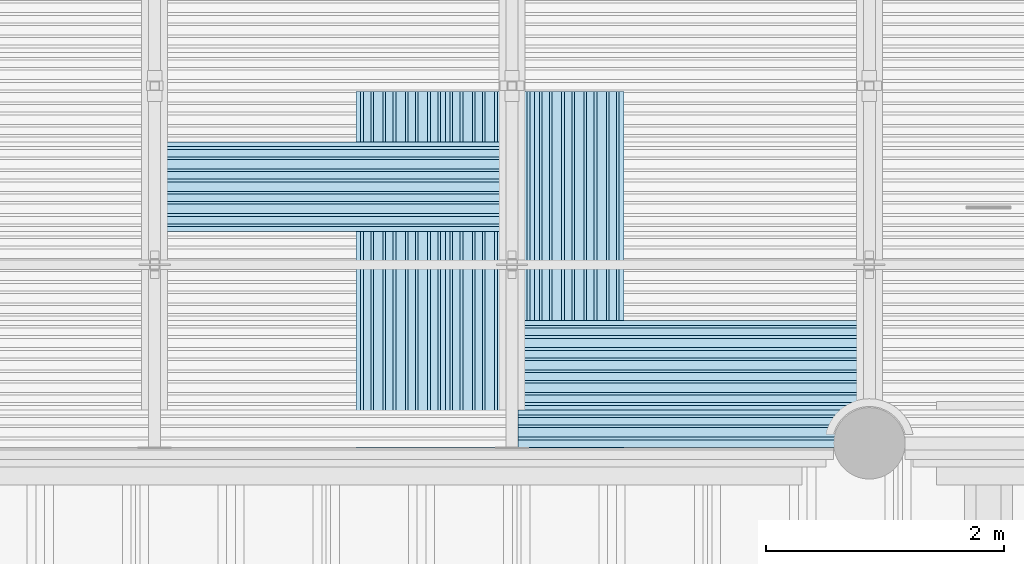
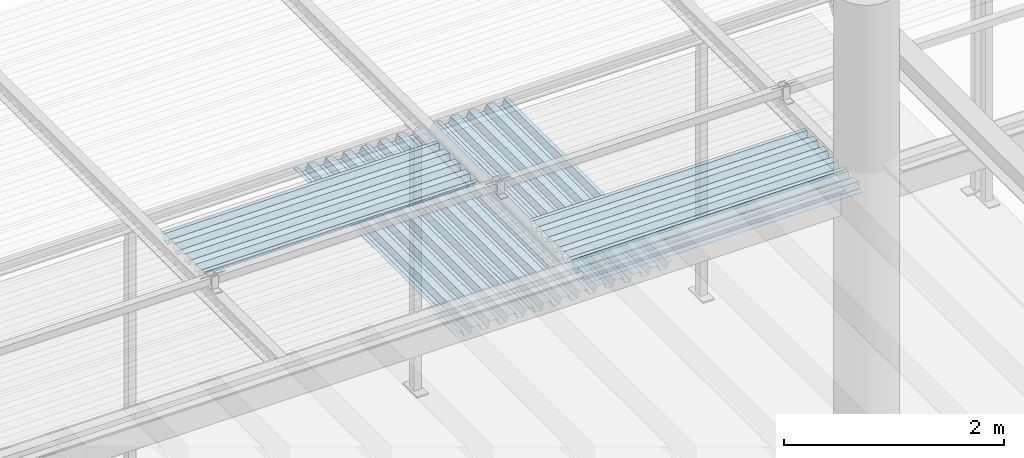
# One storey, part 70 of 98: 6 slabs.
"""IFC2X3 building model written with IfcOpenShell, lengths in millimetres."""

import ifcopenshell
import ifcopenshell.guid

model = None  # the IFC model being written
_history = None  # IfcOwnerHistory: only IFC2X3 demands one
_inside = {}  # id of a spatial element -> (the spatial element, [elements in it])
_under = {}  # id of a project, library or spatial element -> (it, [spatial elements below it])
_declared = {}  # id of a project -> (the project, [libraries it declares])
_typed = {}  # id of a type object -> (the type object, [elements of that type])
_made_of = {}  # id of a material, layer set ... -> (it, [elements and type objects made of it])


def new_model(schema):
    """Start an empty IFC model of exactly this schema.

    Asked for "IFC4X3", IfcOpenShell would pick the latest addendum, in which some entities
    have other attributes; the version numbers below select the first issue.
    IFC2X3 requires an IfcOwnerHistory on every rooted entity: one is made here for all.
    """
    global model, _history
    if schema == "IFC4X3":
        model = ifcopenshell.file(schema_version=(4, 3, 0, 0))
    else:
        model = ifcopenshell.file(schema=schema)
    _inside.clear()
    _under.clear()
    _declared.clear()
    _typed.clear()
    _made_of.clear()
    _history = None
    if model.schema == "IFC2X3":
        org = make("IfcOrganization", Name="unknown")
        user = make(
            "IfcPersonAndOrganization",
            ThePerson=make("IfcPerson", FamilyName="unknown"),
            TheOrganization=org,
        )
        app = make(
            "IfcApplication",
            ApplicationDeveloper=org,
            Version="unknown",
            ApplicationFullName="unknown",
            ApplicationIdentifier="unknown",
        )
        _history = make(
            "IfcOwnerHistory",
            OwningUser=user,
            OwningApplication=app,
            ChangeAction="ADDED",
            CreationDate=0,
        )
    return model


def make(cls, **values):
    """One entity of the class cls with the attributes given. An attribute that is None is left unset."""
    return model.create_entity(
        cls, **{name: value for name, value in values.items() if value is not None}
    )


def entity(cls, *values):
    """Any entity or typed value of the class cls, its attributes in the order of the schema. None: left unset."""
    e = model.create_entity(cls)
    for i, value in enumerate(values):
        if value is not None:
            e[i] = value
    return e


def rooted(cls, **values):
    """An entity with a GlobalId (a new one), such as an element, a storey or a relation."""
    return make(cls, GlobalId=ifcopenshell.guid.new(), OwnerHistory=_history, **values)


def si_unit(unit_type, name, prefix=None):
    """IfcSIUnit, for example si_unit("LENGTHUNIT", "METRE", prefix="MILLI")."""
    return make("IfcSIUnit", UnitType=unit_type, Prefix=prefix, Name=name)


def converted_unit(unit_type, name, factor, base, dimensions=None, offset=None):
    """IfcConversionBasedUnit, such as the inch: factor (a typed value) times the base unit."""
    return make(
        "IfcConversionBasedUnit"
        if offset is None
        else "IfcConversionBasedUnitWithOffset",
        ConversionOffset=offset,
        Dimensions=None
        if dimensions is None
        else entity("IfcDimensionalExponents", *dimensions),
        UnitType=unit_type,
        Name=name,
        ConversionFactor=make(
            "IfcMeasureWithUnit", ValueComponent=factor, UnitComponent=base
        ),
    )


def derived_unit(unit_type, elements):
    """IfcDerivedUnit: a product of units, each with its exponent."""
    return make(
        "IfcDerivedUnit",
        Elements=[
            make("IfcDerivedUnitElement", Unit=unit, Exponent=power)
            for unit, power in elements
        ],
        UnitType=unit_type,
    )


def assignment(units):
    """IfcUnitAssignment: the units of a project."""
    return None if units is None else make("IfcUnitAssignment", Units=units)


def point(xyz):
    """IfcCartesianPoint."""
    return None if xyz is None else make("IfcCartesianPoint", Coordinates=xyz)


def direction(xyz):
    """IfcDirection."""
    return None if xyz is None else make("IfcDirection", DirectionRatios=xyz)


def frame(location, z_axis=None, x_axis=None):
    """IfcAxis2Placement3D, a coordinate frame: its origin and axes. An axis left out is left unset."""
    return make(
        "IfcAxis2Placement3D",
        Location=point(location),
        Axis=direction(z_axis),
        RefDirection=direction(x_axis),
    )


def origin_with_axes():
    """The frame at (0, 0, 0) with the z axis (0, 0, 1) and the x axis (1, 0, 0) written out."""
    return frame((0.0, 0.0, 0.0), z_axis=(0.0, 0.0, 1.0), x_axis=(1.0, 0.0, 0.0))


def place(relative_to, where):
    """IfcLocalPlacement: puts the frame where relative to a parent placement (None: the world)."""
    return make(
        "IfcLocalPlacement", PlacementRelTo=relative_to, RelativePlacement=where
    )


def context(
    kind, dimensions, precision=None, world=None, true_north=None, identifier=None
):
    """IfcGeometricRepresentationContext, for example the 3D "Model" context."""
    return make(
        "IfcGeometricRepresentationContext",
        ContextIdentifier=identifier,
        ContextType=kind,
        CoordinateSpaceDimension=dimensions,
        Precision=precision,
        WorldCoordinateSystem=world,
        TrueNorth=true_north,
    )


def subcontext(parent, identifier, kind, view, scale=None):
    """IfcGeometricRepresentationSubContext, for example "Body" below "Model"."""
    return make(
        "IfcGeometricRepresentationSubContext",
        ContextIdentifier=identifier,
        ContextType=kind,
        ParentContext=parent,
        TargetScale=scale,
        TargetView=view,
    )


def project(units=None, contexts=None):
    """IfcProject with its units and contexts."""
    return rooted(
        "IfcProject",
        Name="project",
        RepresentationContexts=contexts,
        UnitsInContext=assignment(units),
    )


def spatial(cls, under=None, at=None, **own):
    """A site, building, storey or space (cls), placed at a placement, below another one or the project."""
    s = rooted(cls, ObjectPlacement=at, **own)
    if under is not None:
        _under.setdefault(under.id(), (under, []))[1].append(s)
    return s


def faces_of(points, faces, orient=None, outer=None):
    """IfcFace entities. A face is a list of loops; a loop is a list of indices into points, from 0.

    orient and outer hold one flag for each loop. By default every Orientation is true, the
    first loop of a face is its IfcFaceOuterBound and the others are IfcFaceBound.
    """
    made = []
    for i, loops in enumerate(faces):
        bounds = []
        for j, loop in enumerate(loops):
            is_outer = j == 0 if outer is None else outer[i][j]
            bounds.append(
                make(
                    "IfcFaceOuterBound" if is_outer else "IfcFaceBound",
                    Bound=make("IfcPolyLoop", Polygon=[points[k] for k in loop]),
                    Orientation=True if orient is None else orient[i][j],
                )
            )
        made.append(make("IfcFace", Bounds=bounds))
    return made


def faceted_brep(points, faces, orient=None, outer=None, voids=None):
    """IfcFacetedBrep: a solid bounded by flat faces; with voids (closed shells), ...WithVoids."""
    shared = [point(p) for p in points]
    hull = make("IfcClosedShell", CfsFaces=faces_of(shared, faces, orient, outer))
    if voids is None:
        return make("IfcFacetedBrep", Outer=hull)
    return make(
        "IfcFacetedBrepWithVoids",
        Outer=hull,
        Voids=[
            make(cls, CfsFaces=faces_of(shared, fs, o, b)) for cls, fs, o, b in voids
        ],
    )


def shape(context_of_items, identifier, shape_type, items):
    """IfcShapeRepresentation: the items that make up one representation, for example the "Body"."""
    return make(
        "IfcShapeRepresentation",
        ContextOfItems=context_of_items,
        RepresentationIdentifier=identifier,
        RepresentationType=shape_type,
        Items=items,
    )


def material(Name=None, Category=None):
    """IfcMaterial."""
    return make("IfcMaterial", Name=Name, Category=Category)


def made_of(thing, what):
    """Note that an element or type object is made of a material, layer set ...; save() writes the relation."""
    if what is not None:
        _made_of.setdefault(what.id(), (what, []))[1].append(thing)
    return thing


def type_object(cls, material=None, **own):
    """A type object (cls), such as IfcWallType, which elements share."""
    return made_of(rooted(cls, **own), material)


def element(
    cls,
    number,
    at=None,
    inside=None,
    cuts=None,
    type_object=None,
    material=None,
    context=None,
    identifier="Body",
    shape_type=None,
    held_by="IfcProductDefinitionShape",
    body=None,
    shapes=None,
    **own,
):
    """One element of the class cls, such as IfcWall. Its Tag is "e" and its number.

    at: its placement. inside: the storey or other place that contains it. cuts: it is an
    opening in that element (IfcRelVoidsElement). A single representation is given by context,
    identifier, shape_type and body (its items); several are given by shapes. held_by: the class
    of the entity that holds the representations. save() writes the other relations.
    """
    e = rooted(cls, Tag="e%d" % number, ObjectPlacement=at, **own)
    if body is not None:
        shapes = [shape(context, identifier, shape_type, body)]
    if shapes is not None:
        e.Representation = make(held_by, Representations=shapes)
    if inside is not None:
        _inside.setdefault(inside.id(), (inside, []))[1].append(e)
    if cuts is not None:
        rooted(
            "IfcRelVoidsElement", RelatingBuildingElement=cuts, RelatedOpeningElement=e
        )
    if type_object is not None:
        _typed.setdefault(type_object.id(), (type_object, []))[1].append(e)
    return made_of(e, material)


def aggregate(whole, parts):
    """IfcRelAggregates: a whole, such as a stair, and the parts it consists of."""
    return rooted("IfcRelAggregates", RelatingObject=whole, RelatedObjects=parts)


def save(model, path):
    """Write the relations noted so far, then the file.

    IfcRelAggregates (storeys below a building ...), IfcRelContainedInSpatialStructure (elements
    in a storey), IfcRelDefinesByType, IfcRelAssociatesMaterial and IfcRelDeclares: one each for
    every whole, place, type object, material and project.
    """
    for whole, parts in _under.values():
        aggregate(whole, parts)
    for where, things in _inside.values():
        rooted(
            "IfcRelContainedInSpatialStructure",
            RelatedElements=things,
            RelatingStructure=where,
        )
    for kind, things in _typed.values():
        rooted("IfcRelDefinesByType", RelatedObjects=things, RelatingType=kind)
    for what, things in _made_of.values():
        rooted("IfcRelAssociatesMaterial", RelatedObjects=things, RelatingMaterial=what)
    for by, libraries in _declared.values():
        rooted("IfcRelDeclares", RelatingContext=by, RelatedDefinitions=libraries)
    model.write(path)


model = new_model("IFC2X3")

# Units and contexts
model_context = context("Model", 3, precision=0.01, world=frame((0.0, 4.29681676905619e-09, 0.0)), true_north=direction((4.01073788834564e-13, 1.0)))
plan_context = context("Plan", 3, precision=0.01, world=frame((0.0, 4.29681676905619e-09, 0.0)), true_north=direction((4.01073788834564e-13, 1.0)))
body_context = subcontext(model_context, "Body", "Model", "MODEL_VIEW")
ifc_project = project(units=[converted_unit("PLANEANGLEUNIT", "DEGREE", entity("IfcPositiveLengthMeasure", 0.0174532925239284), si_unit("PLANEANGLEUNIT", "RADIAN"), dimensions=[0, 0, 0, 0, 0, 0, 0]), si_unit("AREAUNIT", "SQUARE_METRE"), si_unit("LENGTHUNIT", "METRE", prefix="MILLI"), si_unit("MASSUNIT", "GRAM", prefix="KILO"), si_unit("POWERUNIT", "WATT"), si_unit("PRESSUREUNIT", "PASCAL"), si_unit("FORCEUNIT", "NEWTON", prefix="KILO"), si_unit("ELECTRICCURRENTUNIT", "AMPERE"), si_unit("THERMODYNAMICTEMPERATUREUNIT", "DEGREE_CELSIUS"), si_unit("TIMEUNIT", "SECOND"), si_unit("VOLUMEUNIT", "CUBIC_METRE"), derived_unit("LINEARVELOCITYUNIT", [(si_unit("LENGTHUNIT", "METRE"), 1), (si_unit("TIMEUNIT", "SECOND"), -1)]), derived_unit("VOLUMETRICFLOWRATEUNIT", [(si_unit("VOLUMEUNIT", "CUBIC_METRE"), 1), (si_unit("TIMEUNIT", "SECOND"), -1)]), derived_unit("THERMALTRANSMITTANCEUNIT", [(si_unit("POWERUNIT", "WATT"), 1), (si_unit("THERMODYNAMICTEMPERATUREUNIT", "KELVIN"), -1), (si_unit("AREAUNIT", "SQUARE_METRE"), -1)])], contexts=[model_context, plan_context])

# Site, building, storey
site_placement = place(None, frame((0.0, -4.29681676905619e-09, 0.0), z_axis=(0.0, 0.0, 1.0), x_axis=(1.0, 0.0, 0.0)))
site = spatial("IfcSite", under=ifc_project, at=site_placement, Name="Gardermoen", CompositionType="ELEMENT")
building_placement = place(site_placement, frame((0.0, 4.29681676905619e-09, 0.0), z_axis=(0.0, 0.0, 1.0), x_axis=(1.0, 0.0, 0.0)))
building = spatial("IfcBuilding", under=site, at=building_placement, Name="TS", CompositionType="ELEMENT")
storey_placement = place(building_placement, origin_with_axes())
storey = spatial("IfcBuildingStorey", under=building, at=storey_placement, Name="D", CompositionType="ELEMENT", Elevation=0.0)

# Slabs
ifc_material = material(Name="STEEL/S355")
slab_type = type_object("IfcSlabType", Name="PLANJA70", PredefinedType="NOTDEFINED")
slab_1_placement = place(storey_placement, frame((525950.000000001, 416654.996695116, 206958.849718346), z_axis=(0.0, 0.0, 1.0), x_axis=(-0.999999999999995, -9.99999902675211e-08, 0.0)))
element("IfcSlab", 1, at=slab_1_placement, inside=storey, type_object=slab_type, material=ifc_material, Name="STÅLTAK", ObjectType="PLANJA70", PredefinedType="FLOOR", context=body_context, shape_type="Brep", body=[
    faceted_brep([(0.0, 375.0, 34.1500015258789), (0.0, 335.299987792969, 34.1500015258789), (2900.00079747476, 335.299987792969, 34.1500015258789), (2900.00079747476, 375.0, 34.1500015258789), (0.0, 313.010681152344, -32.1500015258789), (2900.00079747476, 313.010681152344, -32.1500015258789), (0.0, 249.489303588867, -32.1500015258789), (2900.00079747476, 249.489303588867, -32.1500015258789), (0.0, 227.199996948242, 34.1500015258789), (2900.00079747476, 227.199996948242, 34.1500015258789), (0.0, 147.800003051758, 34.1500015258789), (2900.00079747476, 147.800003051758, 34.1500015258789), (0.0, 125.280120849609, -33.1500015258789), (2900.00079747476, 125.280120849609, -33.1500015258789), (0.0, 62.2198791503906, -33.1500015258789), (2900.00079747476, 62.2198791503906, -33.1500015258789), (0.0, 39.7000007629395, 34.1500015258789), (2900.00079747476, 39.7000007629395, 34.1500015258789), (0.0, -39.7000007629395, 34.1500015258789), (2900.00079747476, -39.7000007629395, 34.1500015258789), (0.0, -62.2198791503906, -33.1500015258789), (2900.00079747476, -62.2198791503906, -33.1500015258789), (0.0, -125.280120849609, -33.1500015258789), (2900.00079747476, -125.280120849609, -33.1500015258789), (0.0, -147.800003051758, 34.1500015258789), (2900.00079747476, -147.800003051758, 34.1500015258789), (0.0, -227.199996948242, 34.1500015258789), (2900.00079747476, -227.199996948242, 34.1500015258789), (0.0, -249.719879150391, -33.1500015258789), (2900.00079747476, -249.719879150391, -33.1500015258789), (0.0, -312.781188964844, -33.1500015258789), (2900.00079747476, -312.781188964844, -33.1500015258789), (0.0, -335.070495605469, 33.1500015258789), (2900.00079747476, -335.070495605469, 33.1500015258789), (0.0, -375.0, 33.1500015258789), (2900.00079747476, -375.0, 33.1500015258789), (0.0, -375.0, 32.1500015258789), (2900.00079747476, -375.0, 32.1500015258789), (0.0, -335.789306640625, 32.1500015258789), (2900.00079747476, -335.789306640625, 32.1500015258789), (0.0, -313.5, -34.1500015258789), (2900.00079747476, -313.5, -34.1500015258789), (0.0, -249.0, -34.1500015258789), (2900.00079747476, -249.0, -34.1500015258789), (0.0, -226.480117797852, 33.1500015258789), (2900.00079747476, -226.480117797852, 33.1500015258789), (0.0, -148.519882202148, 33.1500015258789), (2900.00079747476, -148.519882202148, 33.1500015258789), (0.0, -126.0, -34.1500015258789), (2900.00079747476, -126.0, -34.1500015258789), (0.0, -61.5, -34.1500015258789), (2900.00079747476, -61.5, -34.1500015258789), (0.0, -38.9801177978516, 33.1500015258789), (2900.00079747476, -38.9801177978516, 33.1500015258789), (0.0, 38.9801177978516, 33.1500015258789), (2900.00079747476, 38.9801177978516, 33.1500015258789), (0.0, 61.5, -34.1500015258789), (2900.00079747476, 61.5, -34.1500015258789), (0.0, 126.0, -34.1500015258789), (2900.00079747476, 126.0, -34.1500015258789), (0.0, 148.519882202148, 33.1500015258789), (2900.00079747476, 148.519882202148, 33.1500015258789), (0.0, 226.481185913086, 33.1500015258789), (2900.00079747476, 226.481185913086, 33.1500015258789), (0.0, 248.770492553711, -33.1500015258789), (2900.00079747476, 248.770492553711, -33.1500015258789), (0.0, 313.7294921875, -33.1500015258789), (2900.00079747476, 313.7294921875, -33.1500015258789), (0.0, 336.018798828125, 33.1500015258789), (2900.00079747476, 336.018798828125, 33.1500015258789), (0.0, 375.0, 33.1500015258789), (2900.00079747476, 375.0, 33.1500015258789)], [[[0, 1, 2, 3]], [[1, 4, 5, 2]], [[4, 6, 7, 5]], [[6, 8, 9, 7]], [[8, 10, 11, 9]], [[10, 12, 13, 11]], [[12, 14, 15, 13]], [[14, 16, 17, 15]], [[16, 18, 19, 17]], [[18, 20, 21, 19]], [[22, 23, 21, 20]], [[22, 24, 25, 23]], [[24, 26, 27, 25]], [[26, 28, 29, 27]], [[28, 30, 31, 29]], [[30, 32, 33, 31]], [[32, 34, 35, 33]], [[34, 36, 37, 35]], [[36, 38, 39, 37]], [[38, 40, 41, 39]], [[40, 42, 43, 41]], [[42, 44, 45, 43]], [[44, 46, 47, 45]], [[46, 48, 49, 47]], [[48, 50, 51, 49]], [[50, 52, 53, 51]], [[52, 54, 55, 53]], [[54, 56, 57, 55]], [[56, 58, 59, 57]], [[58, 60, 61, 59]], [[60, 62, 63, 61]], [[62, 64, 65, 63]], [[64, 66, 67, 65]], [[66, 68, 69, 67]], [[68, 70, 71, 69]], [[70, 0, 3, 71]], [[5, 7, 9, 11, 13, 15, 17, 19, 21, 23, 25, 27, 29, 31, 33, 35, 37, 39, 41, 43, 45, 47, 49, 51, 53, 55, 57, 59, 61, 63, 65, 67, 69, 71, 3, 2]], [[70, 68, 66, 64, 62, 60, 58, 56, 54, 52, 50, 48, 46, 44, 42, 40, 38, 36, 34, 32, 30, 28, 26, 24, 22, 20, 18, 16, 14, 12, 10, 8, 6, 4, 1, 0]]]),
])
slab_2_placement = place(storey_placement, frame((528950.000000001, 414404.996695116, 206958.849718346), z_axis=(0.0, 0.0, 1.0), x_axis=(-0.999999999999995, -9.99999902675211e-08, 0.0)))
element("IfcSlab", 2, at=slab_2_placement, inside=storey, type_object=slab_type, material=ifc_material, Name="STÅLTAK", ObjectType="PLANJA70", PredefinedType="FLOOR", context=body_context, shape_type="Brep", body=[
    faceted_brep([(0.0, -148.519882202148, 33.1500015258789), (0.0, -126.0, -34.1500015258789), (2900.00079747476, -126.0, -34.1500015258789), (2900.00079747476, -148.519882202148, 33.1500015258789), (0.0, -226.480117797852, 33.1500015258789), (2900.00079747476, -226.480117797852, 33.1500015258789), (0.0, -249.0, -34.1500015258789), (2900.00079747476, -249.0, -34.1500015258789), (0.0, -313.5, -34.1500015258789), (2900.00079747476, -313.5, -34.1500015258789), (0.0, -335.789306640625, 32.1500015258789), (2900.00079747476, -335.789306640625, 32.1500015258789), (0.0, -375.0, 32.1500015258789), (2900.00079747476, -375.0, 32.1500015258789), (0.0, -375.0, 33.1500015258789), (2900.00079747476, -375.0, 33.1500015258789), (0.0, -335.070495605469, 33.1500015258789), (2900.00079747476, -335.070495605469, 33.1500015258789), (0.0, -312.781188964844, -33.1500015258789), (2900.00079747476, -312.781188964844, -33.1500015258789), (0.0, -249.719879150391, -33.1500015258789), (2900.00079747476, -249.719879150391, -33.1500015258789), (0.0, -227.199996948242, 34.1500015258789), (2900.00079747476, -227.199996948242, 34.1500015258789), (0.0, -147.800003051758, 34.1500015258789), (2900.00079747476, -147.800003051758, 34.1500015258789), (0.0, -125.280120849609, -33.1500015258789), (2900.00079747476, -125.280120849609, -33.1500015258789), (2900.00079747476, -62.2198791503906, -33.1500015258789), (0.0, -62.2198791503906, -33.1500015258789), (0.0, -62.2198791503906, -34.1500015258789), (2900.00079747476, -62.2198791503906, -34.1500015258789)], [[[0, 1, 2, 3]], [[4, 0, 3, 5]], [[6, 4, 5, 7]], [[8, 6, 7, 9]], [[10, 8, 9, 11]], [[12, 10, 11, 13]], [[14, 12, 13, 15]], [[16, 14, 15, 17]], [[18, 16, 17, 19]], [[20, 18, 19, 21]], [[22, 20, 21, 23]], [[24, 22, 23, 25]], [[26, 24, 25, 27]], [[26, 27, 28, 29]], [[1, 0, 4, 6, 8, 10, 12, 14, 16, 18, 20, 22, 24, 26, 29, 30]], [[2, 1, 30, 31]], [[27, 25, 23, 21, 19, 17, 15, 13, 11, 9, 7, 5, 3, 2, 31, 28]], [[30, 29, 28, 31]]]),
])
slab_3_placement = place(storey_placement, frame((528950.000000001, 415154.996695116, 206958.849718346), z_axis=(0.0, 0.0, 1.0), x_axis=(-0.999999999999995, -9.99999902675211e-08, 0.0)))
element("IfcSlab", 3, at=slab_3_placement, inside=storey, type_object=slab_type, material=ifc_material, Name="STÅLTAK", ObjectType="PLANJA70", PredefinedType="FLOOR", context=body_context, shape_type="Brep", body=[
    faceted_brep([(0.0, 375.0, 34.1500015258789), (0.0, 335.299987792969, 34.1500015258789), (2900.00079747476, 335.299987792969, 34.1500015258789), (2900.00079747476, 375.0, 34.1500015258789), (0.0, 313.010681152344, -32.1500015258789), (2900.00079747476, 313.010681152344, -32.1500015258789), (0.0, 249.489303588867, -32.1500015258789), (2900.00079747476, 249.489303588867, -32.1500015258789), (0.0, 227.199996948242, 34.1500015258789), (2900.00079747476, 227.199996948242, 34.1500015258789), (0.0, 147.800003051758, 34.1500015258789), (2900.00079747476, 147.800003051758, 34.1500015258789), (0.0, 125.280120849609, -33.1500015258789), (2900.00079747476, 125.280120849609, -33.1500015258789), (0.0, 62.2198791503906, -33.1500015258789), (2900.00079747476, 62.2198791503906, -33.1500015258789), (0.0, 39.7000007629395, 34.1500015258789), (2900.00079747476, 39.7000007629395, 34.1500015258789), (0.0, -39.7000007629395, 34.1500015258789), (2900.00079747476, -39.7000007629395, 34.1500015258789), (0.0, -62.2198791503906, -33.1500015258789), (2900.00079747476, -62.2198791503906, -33.1500015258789), (0.0, -125.280120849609, -33.1500015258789), (2900.00079747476, -125.280120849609, -33.1500015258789), (0.0, -147.800003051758, 34.1500015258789), (2900.00079747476, -147.800003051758, 34.1500015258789), (0.0, -227.199996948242, 34.1500015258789), (2900.00079747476, -227.199996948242, 34.1500015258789), (0.0, -249.719879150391, -33.1500015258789), (2900.00079747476, -249.719879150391, -33.1500015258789), (0.0, -312.781188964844, -33.1500015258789), (2900.00079747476, -312.781188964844, -33.1500015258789), (0.0, -335.070495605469, 33.1500015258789), (2900.00079747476, -335.070495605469, 33.1500015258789), (0.0, -375.0, 33.1500015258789), (2900.00079747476, -375.0, 33.1500015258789), (0.0, -375.0, 32.1500015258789), (2900.00079747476, -375.0, 32.1500015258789), (0.0, -335.789306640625, 32.1500015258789), (2900.00079747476, -335.789306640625, 32.1500015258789), (0.0, -313.5, -34.1500015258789), (2900.00079747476, -313.5, -34.1500015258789), (0.0, -249.0, -34.1500015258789), (2900.00079747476, -249.0, -34.1500015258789), (0.0, -226.480117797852, 33.1500015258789), (2900.00079747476, -226.480117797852, 33.1500015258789), (0.0, -148.519882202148, 33.1500015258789), (2900.00079747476, -148.519882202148, 33.1500015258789), (0.0, -126.0, -34.1500015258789), (2900.00079747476, -126.0, -34.1500015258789), (0.0, -61.5, -34.1500015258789), (2900.00079747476, -61.5, -34.1500015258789), (0.0, -38.9801177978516, 33.1500015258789), (2900.00079747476, -38.9801177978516, 33.1500015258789), (0.0, 38.9801177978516, 33.1500015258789), (2900.00079747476, 38.9801177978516, 33.1500015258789), (0.0, 61.5, -34.1500015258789), (2900.00079747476, 61.5, -34.1500015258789), (0.0, 126.0, -34.1500015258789), (2900.00079747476, 126.0, -34.1500015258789), (0.0, 148.519882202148, 33.1500015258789), (2900.00079747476, 148.519882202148, 33.1500015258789), (0.0, 226.481185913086, 33.1500015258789), (2900.00079747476, 226.481185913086, 33.1500015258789), (0.0, 248.770492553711, -33.1500015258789), (2900.00079747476, 248.770492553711, -33.1500015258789), (0.0, 313.7294921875, -33.1500015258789), (2900.00079747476, 313.7294921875, -33.1500015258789), (0.0, 336.018798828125, 33.1500015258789), (2900.00079747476, 336.018798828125, 33.1500015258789), (0.0, 375.0, 33.1500015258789), (2900.00079747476, 375.0, 33.1500015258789)], [[[0, 1, 2, 3]], [[1, 4, 5, 2]], [[4, 6, 7, 5]], [[6, 8, 9, 7]], [[8, 10, 11, 9]], [[10, 12, 13, 11]], [[12, 14, 15, 13]], [[14, 16, 17, 15]], [[16, 18, 19, 17]], [[18, 20, 21, 19]], [[22, 23, 21, 20]], [[22, 24, 25, 23]], [[24, 26, 27, 25]], [[26, 28, 29, 27]], [[28, 30, 31, 29]], [[30, 32, 33, 31]], [[32, 34, 35, 33]], [[34, 36, 37, 35]], [[36, 38, 39, 37]], [[38, 40, 41, 39]], [[40, 42, 43, 41]], [[42, 44, 45, 43]], [[44, 46, 47, 45]], [[46, 48, 49, 47]], [[48, 50, 51, 49]], [[50, 52, 53, 51]], [[52, 54, 55, 53]], [[54, 56, 57, 55]], [[56, 58, 59, 57]], [[58, 60, 61, 59]], [[60, 62, 63, 61]], [[62, 64, 65, 63]], [[64, 66, 67, 65]], [[66, 68, 69, 67]], [[68, 70, 71, 69]], [[70, 0, 3, 71]], [[5, 7, 9, 11, 13, 15, 17, 19, 21, 23, 25, 27, 29, 31, 33, 35, 37, 39, 41, 43, 45, 47, 49, 51, 53, 55, 57, 59, 61, 63, 65, 67, 69, 71, 3, 2]], [[70, 68, 66, 64, 62, 60, 58, 56, 54, 52, 50, 48, 46, 44, 42, 40, 38, 36, 34, 32, 30, 28, 26, 24, 22, 20, 18, 16, 14, 12, 10, 8, 6, 4, 1, 0]]]),
])
slab_4_placement = place(storey_placement, frame((525064.996695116, 414458.999999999, 206834.129718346), z_axis=(0.0, 0.0, 1.0), x_axis=(0.0, 1.0, 0.0)))
element("IfcSlab", 4, at=slab_4_placement, inside=storey, type_object=slab_type, material=ifc_material, Name="STÅLTAK", ObjectType="PLANJA70", PredefinedType="FLOOR", context=body_context, shape_type="Brep", body=[
    faceted_brep([(0.0, 375.0, 34.1500015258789), (0.0, 335.299987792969, 34.1500015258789), (2995.66049790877, 335.299987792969, 34.1500015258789), (2995.66049790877, 375.0, 34.1500015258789), (0.0, 313.010681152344, -32.1500015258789), (2995.66049790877, 313.010681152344, -32.1500015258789), (0.0, 249.489303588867, -32.1500015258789), (2995.66049790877, 249.489303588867, -32.1500015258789), (0.0, 227.199996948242, 34.1500015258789), (2995.66049790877, 227.199996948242, 34.1500015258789), (0.0, 147.800003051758, 34.1500015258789), (2995.66049790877, 147.800003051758, 34.1500015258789), (0.0, 125.280120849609, -33.1500015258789), (2995.66049790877, 125.280120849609, -33.1500015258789), (0.0, 62.2198791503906, -33.1500015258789), (2995.66049790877, 62.2198791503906, -33.1500015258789), (0.0, 39.7000007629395, 34.1500015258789), (2995.66049790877, 39.7000007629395, 34.1500015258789), (0.0, -39.7000007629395, 34.1500015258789), (2995.66049790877, -39.7000007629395, 34.1500015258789), (0.0, -62.2198791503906, -33.1500015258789), (2995.66049790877, -62.2198791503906, -33.1500015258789), (0.0, -125.280120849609, -33.1500015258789), (2995.66049790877, -125.280120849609, -33.1500015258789), (0.0, -147.800003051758, 34.1500015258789), (2995.66049790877, -147.800003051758, 34.1500015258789), (0.0, -227.199996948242, 34.1500015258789), (2995.66049790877, -227.199996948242, 34.1500015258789), (0.0, -249.719879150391, -33.1500015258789), (2995.66049790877, -249.719879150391, -33.1500015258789), (0.0, -312.781188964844, -33.1500015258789), (2995.66049790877, -312.781188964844, -33.1500015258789), (0.0, -335.070495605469, 33.1500015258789), (2995.66049790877, -335.070495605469, 33.1500015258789), (0.0, -375.0, 33.1500015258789), (2995.66049790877, -375.0, 33.1500015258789), (0.0, -375.0, 32.1500015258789), (2995.66049790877, -375.0, 32.1500015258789), (0.0, -335.789306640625, 32.1500015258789), (2995.66049790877, -335.789306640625, 32.1500015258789), (0.0, -313.5, -34.1500015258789), (2995.66049790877, -313.5, -34.1500015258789), (0.0, -249.0, -34.1500015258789), (2995.66049790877, -249.0, -34.1500015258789), (0.0, -226.480117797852, 33.1500015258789), (2995.66049790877, -226.480117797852, 33.1500015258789), (0.0, -148.519882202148, 33.1500015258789), (2995.66049790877, -148.519882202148, 33.1500015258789), (0.0, -126.0, -34.1500015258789), (2995.66049790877, -126.0, -34.1500015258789), (0.0, -61.5, -34.1500015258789), (2995.66049790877, -61.5, -34.1500015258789), (0.0, -38.9801177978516, 33.1500015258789), (2995.66049790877, -38.9801177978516, 33.1500015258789), (0.0, 38.9801177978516, 33.1500015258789), (2995.66049790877, 38.9801177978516, 33.1500015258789), (0.0, 61.5, -34.1500015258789), (2995.66049790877, 61.5, -34.1500015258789), (0.0, 126.0, -34.1500015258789), (2995.66049790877, 126.0, -34.1500015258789), (0.0, 148.519882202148, 33.1500015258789), (2995.66049790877, 148.519882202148, 33.1500015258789), (0.0, 226.481185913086, 33.1500015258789), (2995.66049790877, 226.481185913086, 33.1500015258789), (0.0, 248.770492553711, -33.1500015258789), (2995.66049790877, 248.770492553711, -33.1500015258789), (0.0, 313.7294921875, -33.1500015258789), (2995.66049790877, 313.7294921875, -33.1500015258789), (0.0, 336.018798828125, 33.1500015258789), (2995.66049790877, 336.018798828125, 33.1500015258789), (0.0, 375.0, 33.1500015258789), (2995.66049790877, 375.0, 33.1500015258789)], [[[0, 1, 2, 3]], [[1, 4, 5, 2]], [[4, 6, 7, 5]], [[6, 8, 9, 7]], [[8, 10, 11, 9]], [[10, 12, 13, 11]], [[12, 14, 15, 13]], [[14, 16, 17, 15]], [[16, 18, 19, 17]], [[18, 20, 21, 19]], [[20, 22, 23, 21]], [[22, 24, 25, 23]], [[24, 26, 27, 25]], [[26, 28, 29, 27]], [[28, 30, 31, 29]], [[30, 32, 33, 31]], [[32, 34, 35, 33]], [[34, 36, 37, 35]], [[36, 38, 39, 37]], [[38, 40, 41, 39]], [[40, 42, 43, 41]], [[42, 44, 45, 43]], [[44, 46, 47, 45]], [[46, 48, 49, 47]], [[48, 50, 51, 49]], [[50, 52, 53, 51]], [[52, 54, 55, 53]], [[54, 56, 57, 55]], [[56, 58, 59, 57]], [[58, 60, 61, 59]], [[60, 62, 63, 61]], [[62, 64, 65, 63]], [[64, 66, 67, 65]], [[66, 68, 69, 67]], [[68, 70, 71, 69]], [[70, 0, 3, 71]], [[5, 7, 9, 11, 13, 15, 17, 19, 21, 23, 25, 27, 29, 31, 33, 35, 37, 39, 41, 43, 45, 47, 49, 51, 53, 55, 57, 59, 61, 63, 65, 67, 69, 71, 3, 2]], [[70, 68, 66, 64, 62, 60, 58, 56, 54, 52, 50, 48, 46, 44, 42, 40, 38, 36, 34, 32, 30, 28, 26, 24, 22, 20, 18, 16, 14, 12, 10, 8, 6, 4, 1, 0]]]),
])
slab_5_placement = place(storey_placement, frame((525814.996695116, 414458.999999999, 206834.129718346), z_axis=(0.0, 0.0, 1.0), x_axis=(0.0, 1.0, 0.0)))
element("IfcSlab", 5, at=slab_5_placement, inside=storey, type_object=slab_type, material=ifc_material, Name="STÅLTAK", ObjectType="PLANJA70", PredefinedType="FLOOR", context=body_context, shape_type="Brep", body=[
    faceted_brep([(0.0, 375.0, 34.1500015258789), (0.0, 335.299987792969, 34.1500015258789), (2995.66049790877, 335.299987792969, 34.1500015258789), (2995.66049790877, 375.0, 34.1500015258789), (0.0, 313.010681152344, -32.1500015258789), (2995.66049790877, 313.010681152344, -32.1500015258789), (0.0, 249.489303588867, -32.1500015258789), (2995.66049790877, 249.489303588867, -32.1500015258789), (0.0, 227.199996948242, 34.1500015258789), (2995.66049790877, 227.199996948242, 34.1500015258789), (0.0, 147.800003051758, 34.1500015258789), (2995.66049790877, 147.800003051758, 34.1500015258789), (0.0, 125.280120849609, -33.1500015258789), (2995.66049790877, 125.280120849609, -33.1500015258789), (0.0, 62.2198791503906, -33.1500015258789), (2995.66049790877, 62.2198791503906, -33.1500015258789), (0.0, 39.7000007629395, 34.1500015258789), (2995.66049790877, 39.7000007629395, 34.1500015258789), (0.0, -39.7000007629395, 34.1500015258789), (2995.66049790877, -39.7000007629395, 34.1500015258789), (0.0, -62.2198791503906, -33.1500015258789), (2995.66049790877, -62.2198791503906, -33.1500015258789), (0.0, -125.280120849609, -33.1500015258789), (2995.66049790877, -125.280120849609, -33.1500015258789), (0.0, -147.800003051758, 34.1500015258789), (2995.66049790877, -147.800003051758, 34.1500015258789), (0.0, -227.199996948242, 34.1500015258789), (2995.66049790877, -227.199996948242, 34.1500015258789), (0.0, -249.719879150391, -33.1500015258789), (2995.66049790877, -249.719879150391, -33.1500015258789), (0.0, -312.781188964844, -33.1500015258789), (2995.66049790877, -312.781188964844, -33.1500015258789), (0.0, -335.070495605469, 33.1500015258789), (2995.66049790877, -335.070495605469, 33.1500015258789), (0.0, -375.0, 33.1500015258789), (2995.66049790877, -375.0, 33.1500015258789), (0.0, -375.0, 32.1500015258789), (2995.66049790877, -375.0, 32.1500015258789), (0.0, -335.789306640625, 32.1500015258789), (2995.66049790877, -335.789306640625, 32.1500015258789), (0.0, -313.5, -34.1500015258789), (2995.66049790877, -313.5, -34.1500015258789), (0.0, -249.0, -34.1500015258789), (2995.66049790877, -249.0, -34.1500015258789), (0.0, -226.480117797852, 33.1500015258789), (2995.66049790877, -226.480117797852, 33.1500015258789), (0.0, -148.519882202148, 33.1500015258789), (2995.66049790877, -148.519882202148, 33.1500015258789), (0.0, -126.0, -34.1500015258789), (2995.66049790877, -126.0, -34.1500015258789), (0.0, -61.5, -34.1500015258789), (2995.66049790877, -61.5, -34.1500015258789), (0.0, -38.9801177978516, 33.1500015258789), (2995.66049790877, -38.9801177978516, 33.1500015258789), (0.0, 38.9801177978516, 33.1500015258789), (2995.66049790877, 38.9801177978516, 33.1500015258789), (0.0, 61.5, -34.1500015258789), (2995.66049790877, 61.5, -34.1500015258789), (0.0, 126.0, -34.1500015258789), (2995.66049790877, 126.0, -34.1500015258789), (0.0, 148.519882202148, 33.1500015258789), (2995.66049790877, 148.519882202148, 33.1500015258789), (0.0, 226.481185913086, 33.1500015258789), (2995.66049790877, 226.481185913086, 33.1500015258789), (0.0, 248.770492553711, -33.1500015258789), (2995.66049790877, 248.770492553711, -33.1500015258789), (0.0, 313.7294921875, -33.1500015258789), (2995.66049790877, 313.7294921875, -33.1500015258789), (0.0, 336.018798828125, 33.1500015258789), (2995.66049790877, 336.018798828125, 33.1500015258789), (0.0, 375.0, 33.1500015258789), (2995.66049790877, 375.0, 33.1500015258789)], [[[0, 1, 2, 3]], [[1, 4, 5, 2]], [[4, 6, 7, 5]], [[6, 8, 9, 7]], [[8, 10, 11, 9]], [[10, 12, 13, 11]], [[12, 14, 15, 13]], [[14, 16, 17, 15]], [[16, 18, 19, 17]], [[18, 20, 21, 19]], [[20, 22, 23, 21]], [[22, 24, 25, 23]], [[24, 26, 27, 25]], [[26, 28, 29, 27]], [[28, 30, 31, 29]], [[30, 32, 33, 31]], [[32, 34, 35, 33]], [[34, 36, 37, 35]], [[36, 38, 39, 37]], [[38, 40, 41, 39]], [[40, 42, 43, 41]], [[42, 44, 45, 43]], [[44, 46, 47, 45]], [[46, 48, 49, 47]], [[48, 50, 51, 49]], [[50, 52, 53, 51]], [[52, 54, 55, 53]], [[54, 56, 57, 55]], [[56, 58, 59, 57]], [[58, 60, 61, 59]], [[60, 62, 63, 61]], [[62, 64, 65, 63]], [[64, 66, 67, 65]], [[66, 68, 69, 67]], [[68, 70, 71, 69]], [[70, 0, 3, 71]], [[5, 7, 9, 11, 13, 15, 17, 19, 21, 23, 25, 27, 29, 31, 33, 35, 37, 39, 41, 43, 45, 47, 49, 51, 53, 55, 57, 59, 61, 63, 65, 67, 69, 71, 3, 2]], [[70, 68, 66, 64, 62, 60, 58, 56, 54, 52, 50, 48, 46, 44, 42, 40, 38, 36, 34, 32, 30, 28, 26, 24, 22, 20, 18, 16, 14, 12, 10, 8, 6, 4, 1, 0]]]),
])
slab_6_placement = place(storey_placement, frame((526564.996695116, 414458.999999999, 206834.129718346), z_axis=(0.0, 0.0, 1.0), x_axis=(0.0, 1.0, 0.0)))
element("IfcSlab", 6, at=slab_6_placement, inside=storey, type_object=slab_type, material=ifc_material, Name="STÅLTAK", ObjectType="PLANJA70", PredefinedType="FLOOR", context=body_context, shape_type="Brep", body=[
    faceted_brep([(0.0, 375.0, 34.1500015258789), (0.0, 335.299987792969, 34.1500015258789), (2995.66049790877, 335.299987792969, 34.1500015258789), (2995.66049790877, 375.0, 34.1500015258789), (0.0, 313.010681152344, -32.1500015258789), (2995.66049790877, 313.010681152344, -32.1500015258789), (0.0, 249.489303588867, -32.1500015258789), (2995.66049790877, 249.489303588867, -32.1500015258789), (0.0, 227.199996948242, 34.1500015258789), (2995.66049790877, 227.199996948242, 34.1500015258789), (0.0, 147.800003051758, 34.1500015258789), (2995.66049790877, 147.800003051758, 34.1500015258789), (0.0, 125.280120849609, -33.1500015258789), (2995.66049790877, 125.280120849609, -33.1500015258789), (0.0, 62.2198791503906, -33.1500015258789), (2995.66049790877, 62.2198791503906, -33.1500015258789), (0.0, 39.7000007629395, 34.1500015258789), (2995.66049790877, 39.7000007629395, 34.1500015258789), (0.0, -39.7000007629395, 34.1500015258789), (2995.66049790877, -39.7000007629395, 34.1500015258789), (0.0, -62.2198791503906, -33.1500015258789), (2995.66049790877, -62.2198791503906, -33.1500015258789), (0.0, -125.280120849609, -33.1500015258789), (2995.66049790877, -125.280120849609, -33.1500015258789), (0.0, -147.800003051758, 34.1500015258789), (2995.66049790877, -147.800003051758, 34.1500015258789), (0.0, -227.199996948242, 34.1500015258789), (2995.66049790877, -227.199996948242, 34.1500015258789), (0.0, -249.719879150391, -33.1500015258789), (2995.66049790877, -249.719879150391, -33.1500015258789), (0.0, -312.781188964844, -33.1500015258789), (2995.66049790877, -312.781188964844, -33.1500015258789), (0.0, -335.070495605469, 33.1500015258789), (2995.66049790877, -335.070495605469, 33.1500015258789), (0.0, -375.0, 33.1500015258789), (2995.66049790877, -375.0, 33.1500015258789), (0.0, -375.0, 32.1500015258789), (2995.66049790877, -375.0, 32.1500015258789), (0.0, -335.789306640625, 32.1500015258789), (2995.66049790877, -335.789306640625, 32.1500015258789), (0.0, -313.5, -34.1500015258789), (2995.66049790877, -313.5, -34.1500015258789), (0.0, -249.0, -34.1500015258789), (2995.66049790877, -249.0, -34.1500015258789), (0.0, -226.480117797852, 33.1500015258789), (2995.66049790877, -226.480117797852, 33.1500015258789), (0.0, -148.519882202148, 33.1500015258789), (2995.66049790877, -148.519882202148, 33.1500015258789), (0.0, -126.0, -34.1500015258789), (2995.66049790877, -126.0, -34.1500015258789), (0.0, -61.5, -34.1500015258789), (2995.66049790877, -61.5, -34.1500015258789), (0.0, -38.9801177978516, 33.1500015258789), (2995.66049790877, -38.9801177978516, 33.1500015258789), (0.0, 38.9801177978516, 33.1500015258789), (2995.66049790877, 38.9801177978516, 33.1500015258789), (0.0, 61.5, -34.1500015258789), (2995.66049790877, 61.5, -34.1500015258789), (0.0, 126.0, -34.1500015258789), (2995.66049790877, 126.0, -34.1500015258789), (0.0, 148.519882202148, 33.1500015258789), (2995.66049790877, 148.519882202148, 33.1500015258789), (0.0, 226.481185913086, 33.1500015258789), (2995.66049790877, 226.481185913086, 33.1500015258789), (0.0, 248.770492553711, -33.1500015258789), (2995.66049790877, 248.770492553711, -33.1500015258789), (0.0, 313.7294921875, -33.1500015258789), (2995.66049790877, 313.7294921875, -33.1500015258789), (0.0, 336.018798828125, 33.1500015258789), (2995.66049790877, 336.018798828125, 33.1500015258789), (0.0, 375.0, 33.1500015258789), (2995.66049790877, 375.0, 33.1500015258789)], [[[0, 1, 2, 3]], [[1, 4, 5, 2]], [[4, 6, 7, 5]], [[6, 8, 9, 7]], [[8, 10, 11, 9]], [[10, 12, 13, 11]], [[12, 14, 15, 13]], [[14, 16, 17, 15]], [[16, 18, 19, 17]], [[18, 20, 21, 19]], [[20, 22, 23, 21]], [[22, 24, 25, 23]], [[24, 26, 27, 25]], [[26, 28, 29, 27]], [[28, 30, 31, 29]], [[30, 32, 33, 31]], [[32, 34, 35, 33]], [[34, 36, 37, 35]], [[36, 38, 39, 37]], [[38, 40, 41, 39]], [[40, 42, 43, 41]], [[42, 44, 45, 43]], [[44, 46, 47, 45]], [[46, 48, 49, 47]], [[48, 50, 51, 49]], [[50, 52, 53, 51]], [[52, 54, 55, 53]], [[54, 56, 57, 55]], [[56, 58, 59, 57]], [[58, 60, 61, 59]], [[60, 62, 63, 61]], [[62, 64, 65, 63]], [[64, 66, 67, 65]], [[66, 68, 69, 67]], [[68, 70, 71, 69]], [[70, 0, 3, 71]], [[5, 7, 9, 11, 13, 15, 17, 19, 21, 23, 25, 27, 29, 31, 33, 35, 37, 39, 41, 43, 45, 47, 49, 51, 53, 55, 57, 59, 61, 63, 65, 67, 69, 71, 3, 2]], [[70, 68, 66, 64, 62, 60, 58, 56, 54, 52, 50, 48, 46, 44, 42, 40, 38, 36, 34, 32, 30, 28, 26, 24, 22, 20, 18, 16, 14, 12, 10, 8, 6, 4, 1, 0]]]),
])

save(model, "model.ifc")
